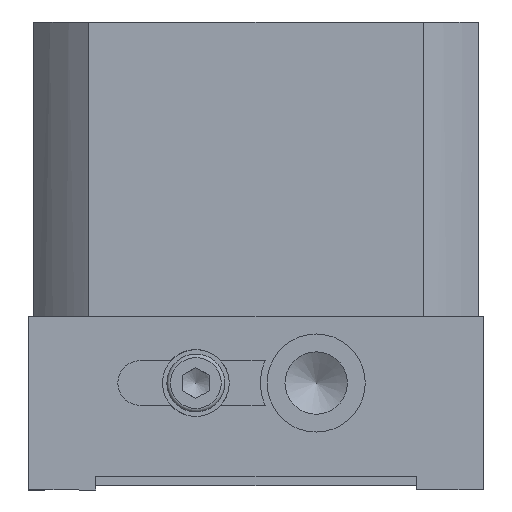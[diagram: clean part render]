
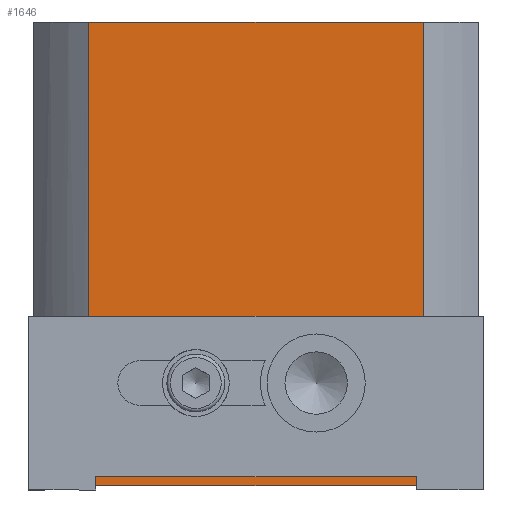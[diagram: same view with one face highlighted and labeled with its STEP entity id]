
A CAD part, left-side view. The second image highlights one B-rep face of the part: STEP entity #1646.
In plain terms, the highlighted planar face has unit normal (-1, 0, 0).
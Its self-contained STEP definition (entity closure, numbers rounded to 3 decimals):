
#456=CARTESIAN_POINT('',(-50.,63.5,-70.0));
#457=VERTEX_POINT('',#456);
#458=CARTESIAN_POINT('',(-50.,63.5,-81.));
#459=DIRECTION('',(-1.0,0.0,0.0));
#460=DIRECTION('',(0.0,1.0,0.0));
#461=AXIS2_PLACEMENT_3D('',#458,#459,#460);
#462=CIRCLE('',#461,11.0);
#463=EDGE_CURVE('',#457,#457,#462,.T.);
#515=CARTESIAN_POINT('',(-50.,36.5,-70.0));
#516=VERTEX_POINT('',#515);
#517=CARTESIAN_POINT('',(-50.,36.5,-81.0));
#518=DIRECTION('',(-1.0,0.0,0.0));
#519=DIRECTION('',(0.0,-1.0,0.0));
#520=AXIS2_PLACEMENT_3D('',#517,#518,#519);
#521=CIRCLE('',#520,11.0);
#522=EDGE_CURVE('',#516,#516,#521,.T.);
#1601=CARTESIAN_POINT('',(-50.0,87.5,0.0));
#1602=DIRECTION('',(-1.0,0.0,0.0));
#1603=DIRECTION('',(0.0,0.0,1.0));
#1604=AXIS2_PLACEMENT_3D('',#1601,#1602,#1603);
#1605=PLANE('',#1604);
#1606=CARTESIAN_POINT('',(-50.0,12.5,0.0));
#1607=VERTEX_POINT('',#1606);
#1608=CARTESIAN_POINT('',(-50.,12.5,-104.));
#1609=VERTEX_POINT('',#1608);
#1610=CARTESIAN_POINT('',(-50.0,12.5,0.0));
#1611=DIRECTION('',(0.0,0.0,-1.0));
#1612=VECTOR('',#1611,104.0);
#1613=LINE('',#1610,#1612);
#1614=EDGE_CURVE('',#1607,#1609,#1613,.T.);
#1615=ORIENTED_EDGE('',*,*,#1614,.F.);
#1616=CARTESIAN_POINT('',(-50.0,87.5,0.0));
#1617=VERTEX_POINT('',#1616);
#1618=CARTESIAN_POINT('',(-50.0,87.5,0.0));
#1619=DIRECTION('',(0.0,-1.0,0.0));
#1620=VECTOR('',#1619,75.0);
#1621=LINE('',#1618,#1620);
#1622=EDGE_CURVE('',#1617,#1607,#1621,.T.);
#1623=ORIENTED_EDGE('',*,*,#1622,.F.);
#1624=CARTESIAN_POINT('',(-50.,87.5,-104.));
#1625=VERTEX_POINT('',#1624);
#1626=CARTESIAN_POINT('',(-50.0,87.5,0.0));
#1627=DIRECTION('',(0.0,0.0,-1.0));
#1628=VECTOR('',#1627,104.0);
#1629=LINE('',#1626,#1628);
#1630=EDGE_CURVE('',#1617,#1625,#1629,.T.);
#1631=ORIENTED_EDGE('',*,*,#1630,.T.);
#1632=CARTESIAN_POINT('',(-50.,87.5,-104.));
#1633=DIRECTION('',(0.0,-1.0,0.0));
#1634=VECTOR('',#1633,75.);
#1635=LINE('',#1632,#1634);
#1636=EDGE_CURVE('',#1625,#1609,#1635,.T.);
#1637=ORIENTED_EDGE('',*,*,#1636,.T.);
#1638=EDGE_LOOP('',(#1615,#1623,#1631,#1637));
#1639=FACE_OUTER_BOUND('',#1638,.T.);
#1640=ORIENTED_EDGE('',*,*,#522,.F.);
#1641=EDGE_LOOP('',(#1640));
#1642=FACE_BOUND('',#1641,.T.);
#1643=ORIENTED_EDGE('',*,*,#463,.F.);
#1644=EDGE_LOOP('',(#1643));
#1645=FACE_BOUND('',#1644,.T.);
#1646=ADVANCED_FACE('',(#1639,#1642,#1645),#1605,.T.);
